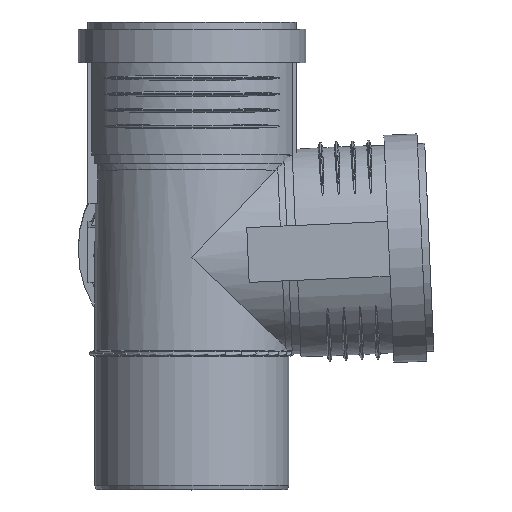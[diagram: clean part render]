
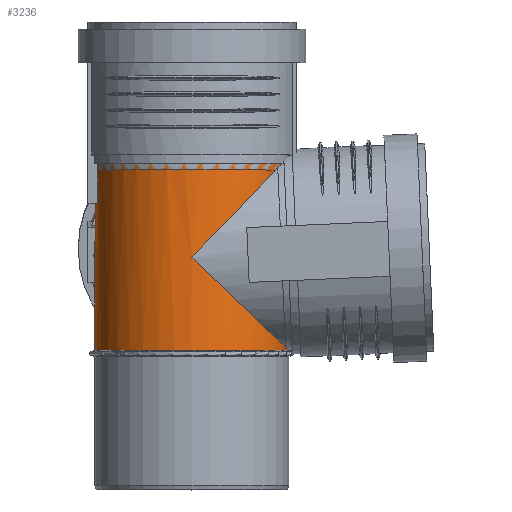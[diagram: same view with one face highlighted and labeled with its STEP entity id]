
A CAD part, top view. The second image highlights one B-rep face of the part: STEP entity #3236.
In plain terms, the highlighted cylindrical face has radius 45.1 mm (diameter 90.2 mm), a partial arc.
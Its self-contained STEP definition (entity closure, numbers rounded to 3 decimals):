
#744=FACE_OUTER_BOUND($,#1179,.T.);
#922=CIRCLE($,#3452,45.1);
#926=CIRCLE($,#3467,45.1);
#1179=EDGE_LOOP($,(#2290,#2291,#2292,#2293,#2294,#2295));
#1438=ELLIPSE($,#3458,62.434,45.1);
#1439=ELLIPSE($,#3459,65.219,45.1);
#1443=ELLIPSE($,#3465,62.434,45.1);
#1444=ELLIPSE($,#3466,65.219,45.1);
#1479=VERTEX_POINT($,#4733);
#1481=VERTEX_POINT($,#4754);
#1484=VERTEX_POINT($,#4781);
#1485=VERTEX_POINT($,#4783);
#1489=VERTEX_POINT($,#4793);
#1490=VERTEX_POINT($,#4795);
#1814=EDGE_CURVE($,#1479,#1481,#922,.T.);
#1817=EDGE_CURVE($,#1484,#1479,#1438,.T.);
#1818=EDGE_CURVE($,#1485,#1484,#1439,.T.);
#1823=EDGE_CURVE($,#1481,#1489,#1443,.T.);
#1824=EDGE_CURVE($,#1489,#1490,#1444,.T.);
#1825=EDGE_CURVE($,#1490,#1485,#926,.T.);
#2290=ORIENTED_EDGE($,*,*,#1814,.T.);
#2291=ORIENTED_EDGE($,*,*,#1823,.T.);
#2292=ORIENTED_EDGE($,*,*,#1824,.T.);
#2293=ORIENTED_EDGE($,*,*,#1825,.T.);
#2294=ORIENTED_EDGE($,*,*,#1818,.T.);
#2295=ORIENTED_EDGE($,*,*,#1817,.T.);
#3171=CYLINDRICAL_SURFACE($,#3464,45.1);
#3236=ADVANCED_FACE($,(#744),#3171,.T.);
#3452=AXIS2_PLACEMENT_3D($,#4773,#3862,#3863);
#3458=AXIS2_PLACEMENT_3D($,#4782,#3874,#3875);
#3459=AXIS2_PLACEMENT_3D($,#4784,#3876,#3877);
#3464=AXIS2_PLACEMENT_3D($,#4792,#3886,#3887);
#3465=AXIS2_PLACEMENT_3D($,#4794,#3888,#3889);
#3466=AXIS2_PLACEMENT_3D($,#4796,#3890,#3891);
#3467=AXIS2_PLACEMENT_3D($,#4797,#3892,#3893);
#3862=DIRECTION('center_axis',(0.,1.,0.));
#3863=DIRECTION('ref_axis',(1.,0.,0.));
#3874=DIRECTION('center_axis',(0.,-0.722,0.692));
#3875=DIRECTION('ref_axis',(0.,-0.692,-0.722));
#3876=DIRECTION('center_axis',(0.,0.692,0.722));
#3877=DIRECTION('ref_axis',(0.,-0.722,0.692));
#3886=DIRECTION('center_axis',(0.,1.,0.));
#3887=DIRECTION('ref_axis',(1.,0.,0.));
#3888=DIRECTION('center_axis',(-0.692,-0.722,0.));
#3889=DIRECTION('ref_axis',(0.722,-0.692,0.));
#3890=DIRECTION('center_axis',(-0.722,0.692,0.));
#3891=DIRECTION('ref_axis',(-0.692,-0.722,0.));
#3892=DIRECTION('center_axis',(0.,-1.,0.));
#3893=DIRECTION('ref_axis',(1.,0.,0.));
#4733=CARTESIAN_POINT('',(-1.499,64.85,-45.075));
#4754=CARTESIAN_POINT('',(45.075,64.85,1.499));
#4773=CARTESIAN_POINT('Origin',(0.,64.85,0.));
#4781=CARTESIAN_POINT('',(-45.1,108.,0.));
#4782=CARTESIAN_POINT('Origin',(0.,108.,0.));
#4783=CARTESIAN_POINT('',(-11.697,153.5,-43.557));
#4784=CARTESIAN_POINT('Origin',(0.,108.,0.));
#4792=CARTESIAN_POINT('Origin',(0.,0.,0.));
#4793=CARTESIAN_POINT('',(0.,108.,45.1));
#4794=CARTESIAN_POINT('Origin',(0.,108.,0.));
#4795=CARTESIAN_POINT('',(43.557,153.5,11.697));
#4796=CARTESIAN_POINT('Origin',(0.,108.,0.));
#4797=CARTESIAN_POINT('Origin',(0.,153.5,0.));
